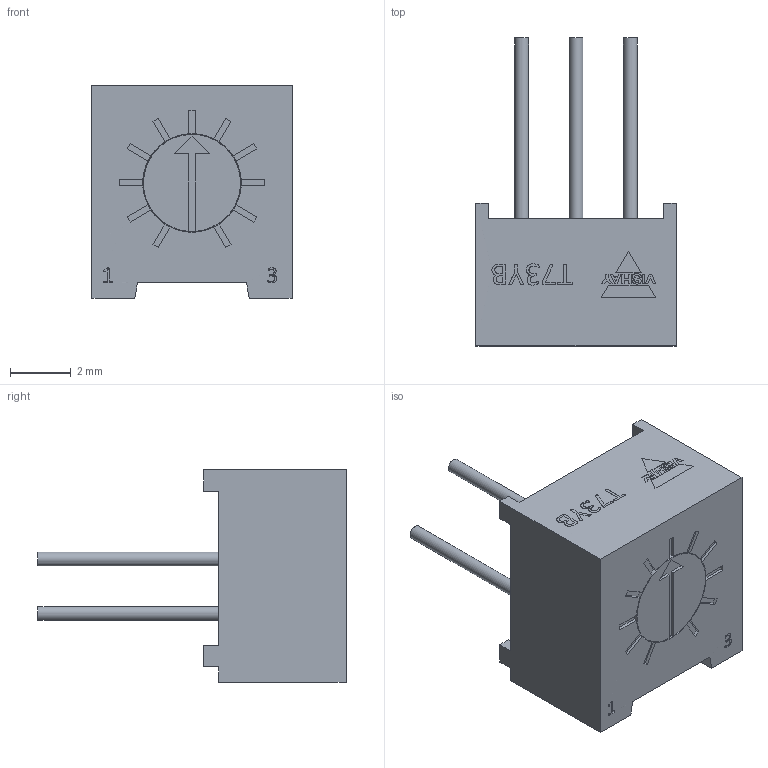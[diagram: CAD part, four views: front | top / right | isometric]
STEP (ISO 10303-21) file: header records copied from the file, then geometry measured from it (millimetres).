
FILE_DESCRIPTION(/* description */ ('Unknown'),/* implementation_level */ '2;1');
FILE_NAME(/* name */ 'T73YB-VISHAY',/* time_stamp */ '2018-05-28T13:35:32+02:00',/* author */ ('Unknown'),/* organization */ ('Unknown'),/* preprocessor_version */ 'ST-DEVELOPER v16.7',/* originating_system */ 'DEX',/* authorisation */ $);
FILE_SCHEMA (('AUTOMOTIVE_DESIGN {1 0 10303 214 3 1 1}'));
Length unit declared in the file: millimetre
Products named in the file (1): T73YB-VISHAY
Bounding box: 6.6 x 10.16 x 7 mm (x, y, z)
Volume: 189.2 mm3; surface area: 269.6 mm2
Topology: 1 solids, 1 shells, 196 faces, 500 edges, 329 vertices
Faces by surface type: plane 163, bspline 28, cylinder 5
Full cylindrical faces by diameter (mm): 0.46 x3, 3.2 x1, 3.25 x1
Entity records: 8008 total; most frequent: CARTESIAN_POINT 2051, ORIENTED_EDGE 986, DIRECTION 812, EDGE_CURVE 493, LINE 398, VECTOR 398, VERTEX_POINT 327, EDGE_LOOP 224
